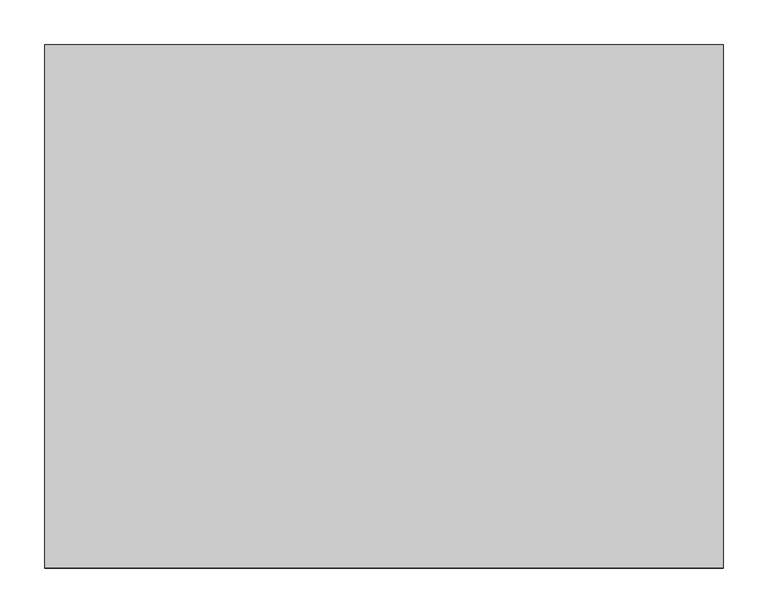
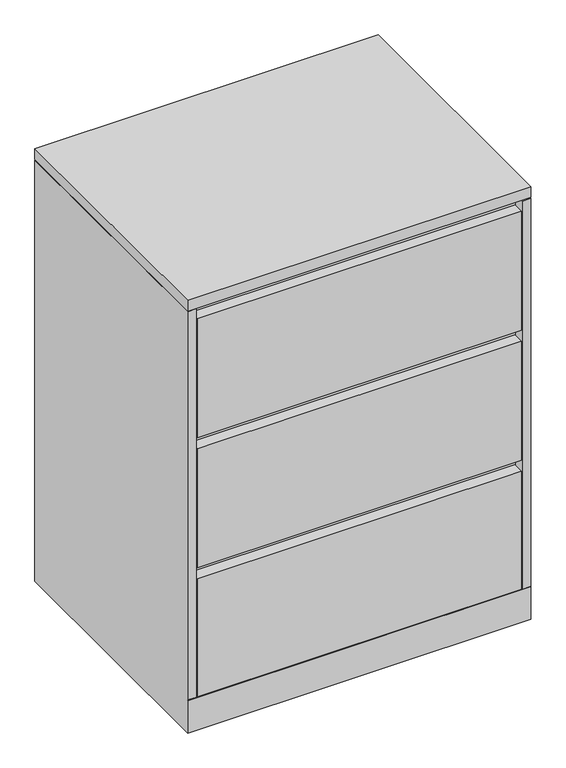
"""IFC4 building model written with IfcOpenShell, lengths in millimetres: furniture geometry, Steelcase - Universal Storage - Lateral File - 3 and 4 High - Flush Steel : 3 Drawers - 23 1/8D x 30W."""

from ifc_helpers import new_model, si_unit, frame, origin, place, context, project, spatial, polyline, outline, extrude, faceted_brep, source, transform, mapped, element, save


def furniture_ac1ac417(model_context):
    return source(origin(), model_context, "Body", "SolidModel", [
        extrude(outline(polyline([(762.0, 587.502), (762.0, 0.0), (0.0, 0.0), (0.0, 587.502), (762.0, 587.502)])), frame((0.0, 0.0, 990.6), z_axis=(0.0, 0.0, 1.0), x_axis=(1.0, 0.0, 0.0)), (0.0, 0.0, 1.0), 25.4),
        faceted_brep([(762.0, 0.0, 0.0), (762.0, 587.502, 0.0), (762.0, 587.502, 989.0759651), (762.0, 0.0, 989.0759651), (762.0, 0.0, 77.7239985), (762.0, 1.524, 77.7239985), (762.0, 1.524, 76.2), (762.0, 0.0, 76.2), (0.0, 0.0, 0.0), (0.0, 0.0, 76.2), (0.0, 1.524, 76.2), (0.0, 1.524, 77.7239985), (0.0, 0.0, 77.7239985), (0.0, 0.0, 989.0759651), (0.0, 587.502, 989.0759651), (0.0, 587.502, 0.0), (19.304, 0.0, 989.0759651), (19.304, 25.4000121, 989.0759651), (742.696, 25.4000121, 989.0759651), (742.696, 0.0, 989.0759651), (19.304, 25.4000121, 101.600003), (742.696, 25.4000121, 101.600003), (19.304, 1.524, 101.600003), (742.696, 1.524, 101.600003), (742.696, 1.524, 77.7239985), (19.304, 1.524, 77.7239985), (19.304, 0.0, 77.7239985), (742.696, 0.0, 77.7239985)], [[[0, 1, 2, 3, 4, 5, 6, 7]], [[8, 9, 10, 11, 12, 13, 14, 15]], [[1, 0, 8, 15]], [[2, 1, 15, 14]], [[3, 2, 14, 13, 16, 17, 18, 19]], [[17, 20, 21, 18]], [[20, 22, 23, 21]], [[10, 6, 5, 24, 23, 22, 25, 11]], [[7, 6, 10, 9]], [[0, 7, 9, 8]], [[17, 16, 26, 25, 22, 20]], [[26, 16, 13, 12]], [[25, 26, 12, 11]], [[24, 27, 19, 18, 21, 23]], [[27, 24, 5, 4]], [[19, 27, 4, 3]]]),
        extrude(outline(polyline([(736.6000242, 562.1019992), (736.6000242, 25.4000121), (25.4000008, 25.4000121), (25.4000008, 562.1019992), (736.6000242, 562.1019992)])), frame((0.0, 0.0, 989.0759651), z_axis=(0.0, 0.0, 1.0), x_axis=(1.0, 0.0, 0.0)), (0.0, 0.0, 1.0), 1.5240349),
        extrude(outline(polyline([(741.1719835, 0.0), (20.8280006, 0.0), (20.8280006, 25.4000121), (741.1719835, 25.4000121), (741.1719835, 0.0)])), frame((0.0, 0.0, 685.8), z_axis=(0.0, 0.0, 1.0), x_axis=(1.0, 0.0, 0.0)), (0.0, 0.0, 1.0), 279.4),
        extrude(outline(polyline([(741.1719835, 0.0), (20.8280006, 0.0), (20.8280006, 25.4000121), (741.1719835, 25.4000121), (741.1719835, 0.0)])), frame((0.0, 0.0, 381.0), z_axis=(0.0, 0.0, 1.0), x_axis=(1.0, 0.0, 0.0)), (0.0, 0.0, 1.0), 279.4),
        extrude(outline(polyline([(741.1719835, 0.0), (20.8280006, 0.0), (20.8280006, 25.4000121), (741.1719835, 25.4000121), (741.1719835, 0.0)])), frame((0.0, 0.0, 77.7239985), z_axis=(0.0, 0.0, 1.0), x_axis=(1.0, 0.0, 0.0)), (0.0, 0.0, 1.0), 277.8759893),
    ])


if __name__ == "__main__":
    model = new_model("IFC4")
    model_context = context("Model", 3, world=origin())
    ifc_project = project(units=[si_unit("LENGTHUNIT", "METRE", prefix="MILLI")], contexts=[model_context])
    site = spatial("IfcSite", under=ifc_project)
    building = spatial("IfcBuilding", under=site)
    placement = place(None, origin())
    furniture_shape = furniture_ac1ac417(model_context)
    element("IfcFurniture", 1, ObjectType="Steelcase - Universal Storage - Lateral File - 3 and 4 High - Flush Steel : 3 Drawers - 23 1/8D x 30W", at=placement, inside=building, context=model_context, shape_type="MappedRepresentation", body=[
        mapped(furniture_shape, transform((0.0, 0.0, 0.0), x_axis=(1.0, 0.0, 0.0), y_axis=(0.0, 1.0, 0.0), z_axis=(0.0, 0.0, 1.0))),
    ])
    save(model, "model.ifc")
